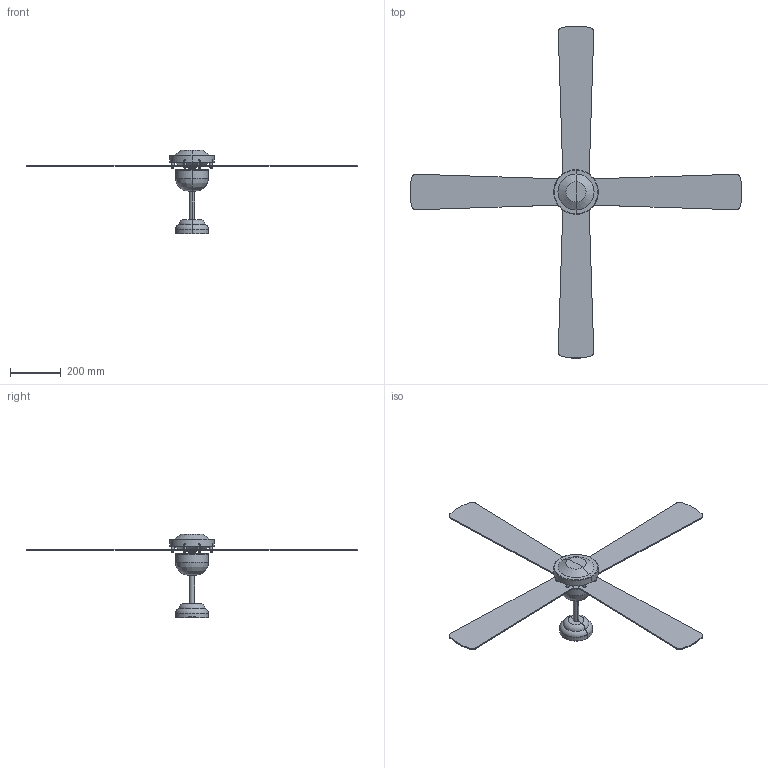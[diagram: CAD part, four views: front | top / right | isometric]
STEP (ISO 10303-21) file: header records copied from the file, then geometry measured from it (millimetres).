
FILE_DESCRIPTION(/* description */ (''),/* implementation_level */ '2;1');
FILE_NAME(/* name */ 'C:\Users\Franco Sartori E\Documents\FARO\DUPLICADO\Modelos\01_Digitalizados\0_IBIZA\03_Publicación\33288.stp',/* time_stamp */ '2020-11-17T11:47:36+01:00',/* author */ ('Franco Sartori E'),/* organization */ (''),/* preprocessor_version */ 'ST-DEVELOPER v18.1',/* originating_system */ 'AutoCAD Mechanical',/* authorisation */ '');
FILE_SCHEMA (('AUTOMOTIVE_DESIGN { 1 0 10303 214 3 1 1 }'));
Length unit declared in the file: millimetre
Products named in the file (2): Product; 33284_33287_33288_IBIZA - FAN-463715-_3D_
Assembly tree (1 placements, depth 2):
  Product
    33284_33287_33288_IBIZA - FAN-463715-_3D_
Bounding box: 1308.15 x 1308.15 x 329.7 mm (x, y, z)
Volume: 2626033.9 mm3; surface area: 1423417.7 mm2
Topology: 27 solids, 28 shells, 482 faces, 1177 edges, 705 vertices
Faces by surface type: cylinder 228, plane 190, torus 54, cone 6, bspline 4
Entity records: 16709 total; most frequent: CARTESIAN_POINT 5765, ORIENTED_EDGE 2260, DIRECTION 2246, EDGE_CURVE 1130, AXIS2_PLACEMENT_3D 915, VERTEX_POINT 704, EDGE_LOOP 518, FACE_OUTER_BOUND 482
